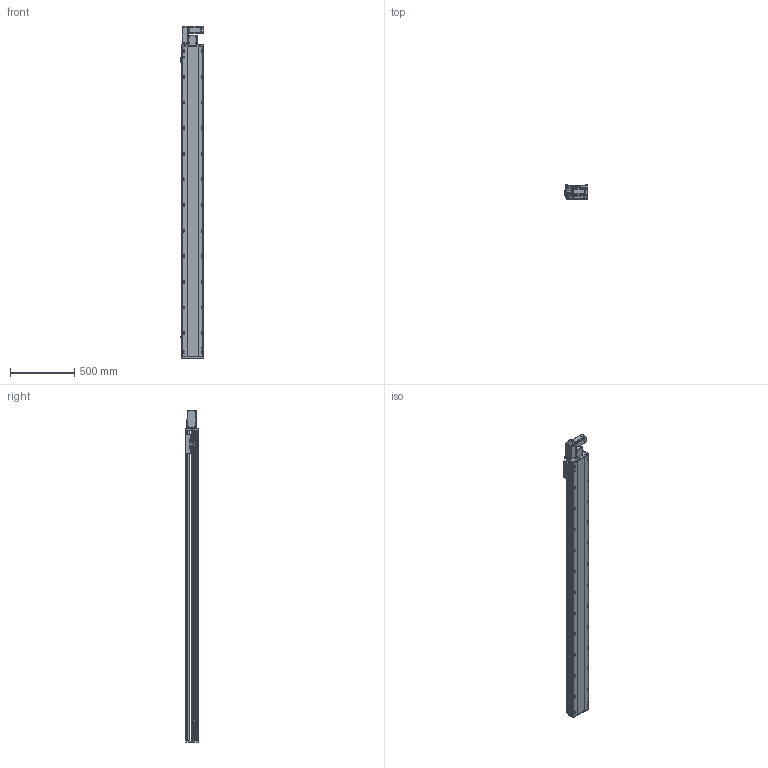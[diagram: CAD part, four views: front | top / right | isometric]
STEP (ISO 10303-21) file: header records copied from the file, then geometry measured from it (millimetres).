
FILE_DESCRIPTION (( 'STEP AP214' ), '1' );
FILE_NAME ('RTB17S-XX-2150-L-M40-C4.STEP', '2025-12-11T05:52:15', ( '' ), ( '' ), 'SwSTEP 2.0', 'SolidWorks 2018', '' );
FILE_SCHEMA (( 'AUTOMOTIVE_DESIGN' ));
Length unit declared in the file: millimetre
Products named in the file (14): RMP17S-L-014-T20--皮带座^RTB17S-L-皮带座装配-400W_RTB17S-XX-XX-L-M40-C4（方程式）; RTB17-R-011底座^RTB17S-XX-XX-L-M40-C4（方程式）; RTB17S-L-007上盖^RTB17S-XX-XX-L-M40-C4（方程式）; OMRON EE-SX672 传感器^RTB17S-XX-XX-L-M40-C4（方程式）; RTB14-L-008-M20--电机板^RTB17S-L-皮带座装配-400W_RTB17S-XX-XX-L-M40-C4（方程式）; RTB14-L-018P^RTB17S-L-皮带座装配-400W_RTB17S-XX-XX-L-M40-C4（方程式）; RTB14-L-005P--轴承塑胶压盖^RTB17S-L-皮带座装配-400W_RTB17S-XX-XX-L-M40-C4（方程式）; RTB17S-L-皮带座装配-400W^RTB17S-XX-XX-L-M40-C4（方程式）; RTB17S-XX-2150-L-M40-C4; RTB14-L-017P^RTB17S-L-皮带座装配-400W_RTB17S-XX-XX-L-M40-C4（方程式）; RTB17S-L-004丝杆螺母连接座^RTB17S-XX-XX-L-M40-C4（方程式）; RTB17S-L-001侧面板^RTB17S-XX-XX-L-M40-C4（方程式）; 400W伺服电机^RTB17S-XX-XX-L-M40-C4（方程式）; RTH13-BL-012感应片外置^RTB17S-XX-XX-L-M40-C4（方程式）
Assembly tree (16 placements, depth 3):
  RTB17S-XX-2150-L-M40-C4
    RTB17-R-011底座^RTB17S-XX-XX-L-M40-C4（方程式）
    RTB17S-L-007上盖^RTB17S-XX-XX-L-M40-C4（方程式）
    OMRON EE-SX672 传感器^RTB17S-XX-XX-L-M40-C4（方程式）  x3
    RTB17S-L-001侧面板^RTB17S-XX-XX-L-M40-C4（方程式）
    400W伺服电机^RTB17S-XX-XX-L-M40-C4（方程式）
    RTB17S-L-004丝杆螺母连接座^RTB17S-XX-XX-L-M40-C4（方程式）
    RTH13-BL-012感应片外置^RTB17S-XX-XX-L-M40-C4（方程式）
    RTB17S-L-皮带座装配-400W^RTB17S-XX-XX-L-M40-C4（方程式）
      RMP17S-L-014-T20--皮带座^RTB17S-L-皮带座装配-400W_RTB17S-XX-XX-L-M40-C4（方程式）
      RTB14-L-005P--轴承塑胶压盖^RTB17S-L-皮带座装配-400W_RTB17S-XX-XX-L-M40-C4（方程式）
      RTB14-L-008-M20--电机板^RTB17S-L-皮带座装配-400W_RTB17S-XX-XX-L-M40-C4（方程式）
      RTB14-L-017P^RTB17S-L-皮带座装配-400W_RTB17S-XX-XX-L-M40-C4（方程式）  x2
      RTB14-L-018P^RTB17S-L-皮带座装配-400W_RTB17S-XX-XX-L-M40-C4（方程式）
Bounding box: 186 x 108 x 2591 mm (x, y, z)
Volume: 21752506.4 mm3; surface area: 2520749.9 mm2
Topology: 15 solids, 15 shells, 2301 faces, 6411 edges, 4185 vertices
Faces by surface type: plane 1080, cylinder 773, bspline 301, cone 139, torus 8
Entity records: 67241 total; most frequent: CARTESIAN_POINT 19016, ORIENTED_EDGE 9666, DIRECTION 8936, EDGE_CURVE 4833, VERTEX_POINT 3173, AXIS2_PLACEMENT_3D 3103, LINE 2730, VECTOR 2730
